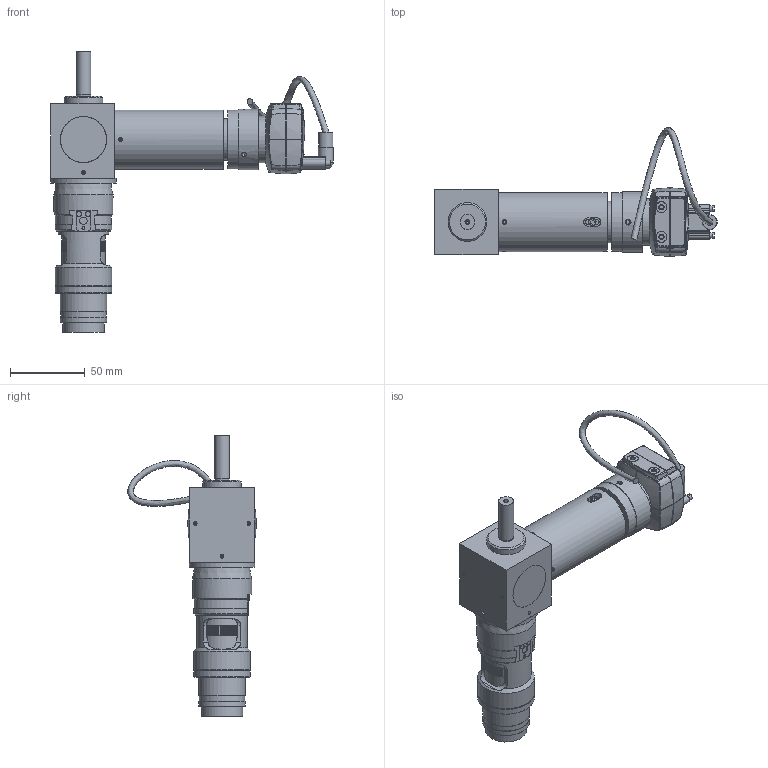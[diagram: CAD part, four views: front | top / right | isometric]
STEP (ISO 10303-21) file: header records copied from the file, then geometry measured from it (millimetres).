
FILE_DESCRIPTION(/* description */ (''),/* implementation_level */ '2;1');
FILE_NAME(/* name */ 'S:\Bureau-Technique\Vidéo\MA 730-Z1-C-064.stp',/* time_stamp */ '2018-09-27T15:43:14+02:00',/* author */ ('chu'),/* organization */ ('Marcel Aubert'),/* preprocessor_version */ 'ST-DEVELOPER v17.2',/* originating_system */ 'Autodesk Inventor 2019',/* authorisation */ '');
FILE_SCHEMA (('AUTOMOTIVE_DESIGN { 1 0 10303 214 3 1 1 }'));
Products named in the file (1): Pièce2
Bounding box: 189.66 x 86.35 x 188.4 mm (x, y, z)
Volume: 290094.1 mm3; surface area: 100905 mm2
Topology: 30 solids, 30 shells, 1206 faces, 3373 edges, 2289 vertices
Faces by surface type: plane 597, cylinder 334, bspline 125, cone 87, torus 43, sphere 20
Full cylindrical faces by diameter (mm): 1.6 x2, 1.88 x4, 2 x3, 2.3 x2, 2.459 x12, 2.5 x2, 3 x12, 3.2 x3, 3.242 x4, 3.5 x4, 3.9 x2, 4 x4, 5 x2, 7.1 x2, 7.4 x2, 9.5 x1, 9.7 x1, 10 x2, 18.5 x1, 19 x2, 19.188 x1, 20 x5, 22 x4, 22.5 x1, 23.5 x1, 24 x1, 24.3 x1, 24.4 x1, 24.605 x1, 25.4 x2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
Entity records: 54530 total; most frequent: CARTESIAN_POINT 22600, ORIENTED_EDGE 6702, DIRECTION 6006, EDGE_CURVE 3351, VERTEX_POINT 2289, AXIS2_PLACEMENT_3D 2205, LINE 1596, VECTOR 1596
